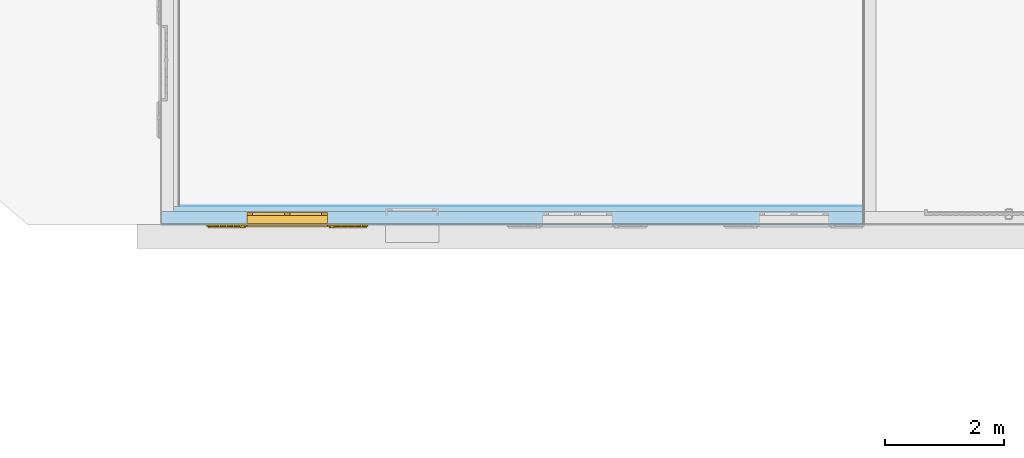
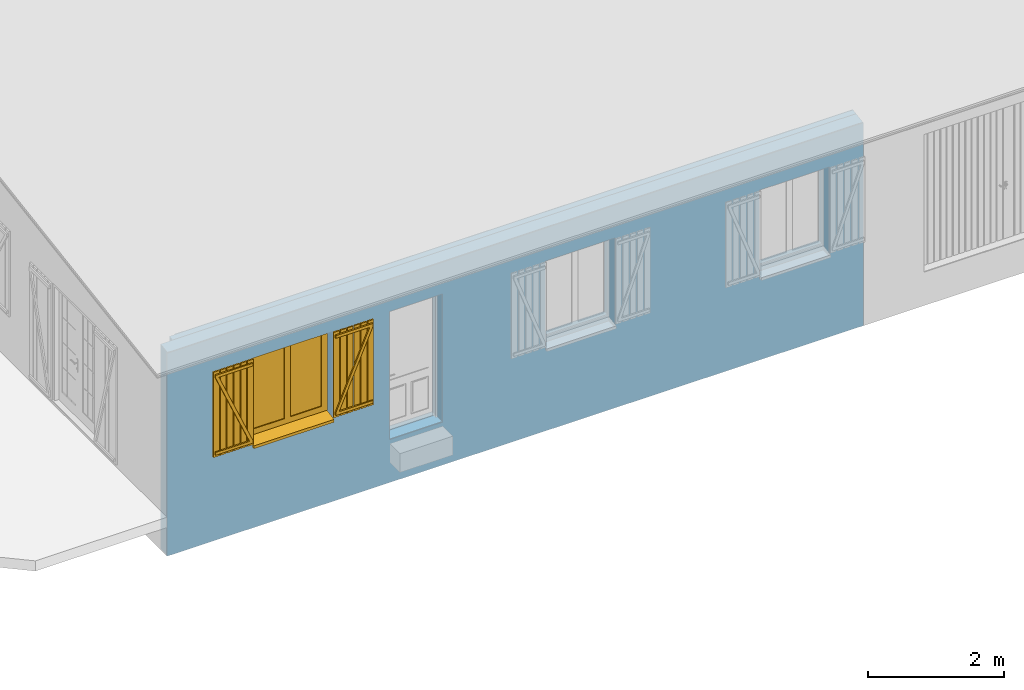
# One storey, part 5 of 12: 1 window, 4 openings, 1 element without a shape of its own, plus 4 elements that do not belong to this part.
"""IFC2X3 building model written with IfcOpenShell, lengths in metres."""

from ifc_helpers import new_model, entity, si_unit, converted_unit, derived_unit, money_unit, direction, frame, origin_with_axes, origin_2d_with_axis, place, context, subcontext, project, spatial, polyline, rectangle, outline, extrude, boolean, open_shell, faceted_brep, surface_model, material, type_object, element, fill, aggregate, save


model = new_model("IFC2X3")

# Units and contexts
model_context = context("Model", 3, precision=1e-05, world=origin_with_axes(), true_north=direction((0.0, 1.0)))
body_context = subcontext(model_context, "Body", "Model", "MODEL_VIEW")
ifc_project = project(units=[si_unit("LENGTHUNIT", "METRE"), si_unit("AREAUNIT", "SQUARE_METRE"), si_unit("VOLUMEUNIT", "CUBIC_METRE"), converted_unit("PLANEANGLEUNIT", "DEGREE", entity("IfcPlaneAngleMeasure", 0.0174532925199), si_unit("PLANEANGLEUNIT", "RADIAN"), dimensions=[0, 0, 0, 0, 0, 0, 0]), si_unit("SOLIDANGLEUNIT", "STERADIAN"), money_unit("CHF"), converted_unit("TIMEUNIT", "Year", entity("IfcTimeMeasure", 31556926.0), si_unit("TIMEUNIT", "SECOND"), dimensions=[0, 0, 1, 0, 0, 0, 0]), si_unit("MASSUNIT", "GRAM", prefix="KILO"), si_unit("THERMODYNAMICTEMPERATUREUNIT", "DEGREE_CELSIUS"), si_unit("LUMINOUSINTENSITYUNIT", "LUMEN"), si_unit("ENERGYUNIT", "JOULE", prefix="MEGA"), derived_unit("THERMALCONDUCTANCEUNIT", [(si_unit("POWERUNIT", "WATT"), 1), (si_unit("LENGTHUNIT", "METRE"), -1), (si_unit("THERMODYNAMICTEMPERATUREUNIT", "KELVIN"), -1)]), derived_unit("SPECIFICHEATCAPACITYUNIT", [(si_unit("ENERGYUNIT", "JOULE"), 1), (si_unit("MASSUNIT", "GRAM", prefix="KILO"), -1), (si_unit("THERMODYNAMICTEMPERATUREUNIT", "KELVIN"), -1)]), derived_unit("MASSDENSITYUNIT", [(si_unit("MASSUNIT", "GRAM", prefix="KILO"), 1), (si_unit("VOLUMEUNIT", "CUBIC_METRE"), -1)])], contexts=[model_context])

# Site, building, storey
site_placement = place(None, origin_with_axes())
site = spatial("IfcSite", under=ifc_project, at=site_placement, Name="Site", CompositionType="ELEMENT")
building_placement = place(site_placement, origin_with_axes())
building = spatial("IfcBuilding", under=site, at=building_placement, Name="Bâtiment", CompositionType="ELEMENT")
storey_placement = place(building_placement, origin_with_axes())
storey = spatial("IfcBuildingStorey", under=building, at=storey_placement, Name="Rez-de-chaussée", CompositionType="ELEMENT", Elevation=0.0)

# Window
window_style = type_object("IfcWindowStyle", Name="Fenêtre horizontale à châssis multiples 24", ConstructionType="NOTDEFINED", OperationType="DOUBLE_PANEL_VERTICAL", ParameterTakesPrecedence=False, Sizeable=False)
wall_placement = place(storey_placement, frame((23.3871417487, 7.7379346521, -0.6), z_axis=(0.0, 0.0, 1.0), x_axis=(-1.0, 0.0, 0.0)))
opening_3_placement = place(wall_placement, frame((9.69, 0.0, 1.55), z_axis=(0.0, 0.0, 1.0), x_axis=(1.0, 0.0, 0.0)))
window_placement = place(opening_3_placement, frame((0.68, 0.0, 0.0), z_axis=(0.0, 0.0, 1.0), x_axis=(-1.0, 0.0, 0.0)))
window = element("IfcWindow", 1, at=window_placement, inside=storey, type_object=window_style, Name="FENETRE-002", ObjectType="WINDOW", OverallHeight=1.5, OverallWidth=1.36, context=body_context, shape_type="SurfaceModel", body=[
    faceted_brep([(1.36, 0.185, 0.0), (0.0, 0.185, 0.0), (0.0, 0.175, 0.0), (1.36, 0.175, 0.0), (1.36, 0.185, -0.1), (0.0, 0.185, -0.1), (0.0, -0.045, -0.1), (0.0, -0.045, -0.0487919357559), (0.0, 0.175, -0.01), (1.36, 0.175, -0.01), (1.36, -0.045, -0.0487919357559), (1.36, -0.045, -0.1)], [[[0, 1, 2, 3]], [[4, 5, 1, 0]], [[1, 5, 6, 7, 8, 2]], [[3, 2, 8, 9]], [[0, 3, 9, 10, 11, 4]], [[11, 6, 5, 4]], [[10, 7, 6, 11]], [[9, 8, 7, 10]]]),
    faceted_brep([(1.36, -0.006, -0.0326204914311), (1.46, -0.006, -0.0326204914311), (1.46, -0.031, -0.0326204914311), (1.36, -0.031, -0.0326204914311), (1.36, -0.006, 1.5), (1.46, -0.006, 1.5), (1.46, -0.031, 1.5), (1.36, -0.031, 1.5)], [[[0, 1, 2, 3]], [[0, 4, 5, 1]], [[1, 5, 6, 2]], [[3, 2, 6, 7]], [[4, 0, 3, 7]], [[5, 4, 7, 6]]]),
    faceted_brep([(1.476, -0.006, -0.0326204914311), (1.576, -0.006, -0.0326204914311), (1.576, -0.031, -0.0326204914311), (1.476, -0.031, -0.0326204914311), (1.476, -0.006, 1.5), (1.576, -0.006, 1.5), (1.576, -0.031, 1.5), (1.476, -0.031, 1.5)], [[[0, 1, 2, 3]], [[0, 4, 5, 1]], [[1, 5, 6, 2]], [[3, 2, 6, 7]], [[4, 0, 3, 7]], [[5, 4, 7, 6]]]),
    faceted_brep([(1.592, -0.006, -0.0326204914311), (1.692, -0.006, -0.0326204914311), (1.692, -0.031, -0.0326204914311), (1.592, -0.031, -0.0326204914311), (1.592, -0.006, 1.5), (1.692, -0.006, 1.5), (1.692, -0.031, 1.5), (1.592, -0.031, 1.5)], [[[0, 1, 2, 3]], [[0, 4, 5, 1]], [[1, 5, 6, 2]], [[3, 2, 6, 7]], [[4, 0, 3, 7]], [[5, 4, 7, 6]]]),
    faceted_brep([(1.708, -0.006, -0.0326204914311), (1.808, -0.006, -0.0326204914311), (1.808, -0.031, -0.0326204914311), (1.708, -0.031, -0.0326204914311), (1.708, -0.006, 1.5), (1.808, -0.006, 1.5), (1.808, -0.031, 1.5), (1.708, -0.031, 1.5)], [[[0, 1, 2, 3]], [[0, 4, 5, 1]], [[1, 5, 6, 2]], [[3, 2, 6, 7]], [[4, 0, 3, 7]], [[5, 4, 7, 6]]]),
    faceted_brep([(1.824, -0.006, -0.0326204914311), (1.924, -0.006, -0.0326204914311), (1.924, -0.031, -0.0326204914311), (1.824, -0.031, -0.0326204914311), (1.824, -0.006, 1.5), (1.924, -0.006, 1.5), (1.924, -0.031, 1.5), (1.824, -0.031, 1.5)], [[[0, 1, 2, 3]], [[0, 4, 5, 1]], [[1, 5, 6, 2]], [[3, 2, 6, 7]], [[4, 0, 3, 7]], [[5, 4, 7, 6]]]),
    faceted_brep([(1.94, -0.006, -0.0326204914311), (2.04, -0.006, -0.0326204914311), (2.04, -0.031, -0.0326204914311), (1.94, -0.031, -0.0326204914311), (1.94, -0.006, 1.5), (2.04, -0.006, 1.5), (2.04, -0.031, 1.5), (1.94, -0.031, 1.5)], [[[0, 1, 2, 3]], [[0, 4, 5, 1]], [[1, 5, 6, 2]], [[3, 2, 6, 7]], [[4, 0, 3, 7]], [[5, 4, 7, 6]]]),
    faceted_brep([(1.385, -0.031, 0.0173795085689), (2.015, -0.031, 0.0173795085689), (2.015, -0.056, 0.0173795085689), (1.385, -0.056, 0.0173795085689), (1.385, -0.031, 0.0673795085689), (2.015, -0.031, 0.0673795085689), (2.015, -0.056, 0.0673795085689), (1.385, -0.056, 0.0673795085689)], [[[0, 1, 2, 3]], [[0, 4, 5, 1]], [[1, 5, 6, 2]], [[3, 2, 6, 7]], [[4, 0, 3, 7]], [[5, 4, 7, 6]]]),
    faceted_brep([(1.385, -0.031, 1.45), (1.385, -0.031, 1.4), (1.385, -0.056, 1.4), (1.385, -0.056, 1.45), (2.015, -0.031, 1.45), (2.015, -0.031, 1.4), (2.015, -0.056, 1.4), (2.015, -0.056, 1.45)], [[[0, 1, 2, 3]], [[0, 4, 5, 1]], [[1, 5, 6, 2]], [[3, 2, 6, 7]], [[4, 0, 3, 7]], [[5, 4, 7, 6]]]),
    faceted_brep([(1.385, -0.031, 0.0673795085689), (1.43946381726, -0.031, 0.0673795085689), (1.43946381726, -0.056, 0.0673795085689), (1.385, -0.056, 0.0673795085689), (1.96053618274, -0.031, 1.4), (2.015, -0.031, 1.4), (2.015, -0.056, 1.4), (1.96053618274, -0.056, 1.4)], [[[0, 1, 2, 3]], [[0, 4, 5, 1]], [[1, 5, 6, 2]], [[3, 2, 6, 7]], [[4, 0, 3, 7]], [[5, 4, 7, 6]]]),
    faceted_brep([(0.0, -0.006, -0.0326204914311), (0.0, -0.031, -0.0326204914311), (-0.1, -0.031, -0.0326204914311), (-0.1, -0.006, -0.0326204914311), (0.0, -0.006, 1.5), (0.0, -0.031, 1.5), (-0.1, -0.031, 1.5), (-0.1, -0.006, 1.5)], [[[0, 1, 2, 3]], [[4, 5, 1, 0]], [[1, 5, 6, 2]], [[3, 2, 6, 7]], [[0, 3, 7, 4]], [[7, 6, 5, 4]]]),
    faceted_brep([(-0.116, -0.006, -0.0326204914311), (-0.116, -0.031, -0.0326204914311), (-0.216, -0.031, -0.0326204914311), (-0.216, -0.006, -0.0326204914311), (-0.116, -0.006, 1.5), (-0.116, -0.031, 1.5), (-0.216, -0.031, 1.5), (-0.216, -0.006, 1.5)], [[[0, 1, 2, 3]], [[4, 5, 1, 0]], [[1, 5, 6, 2]], [[3, 2, 6, 7]], [[0, 3, 7, 4]], [[7, 6, 5, 4]]]),
    faceted_brep([(-0.232, -0.006, -0.0326204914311), (-0.232, -0.031, -0.0326204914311), (-0.332, -0.031, -0.0326204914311), (-0.332, -0.006, -0.0326204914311), (-0.232, -0.006, 1.5), (-0.232, -0.031, 1.5), (-0.332, -0.031, 1.5), (-0.332, -0.006, 1.5)], [[[0, 1, 2, 3]], [[4, 5, 1, 0]], [[1, 5, 6, 2]], [[3, 2, 6, 7]], [[0, 3, 7, 4]], [[7, 6, 5, 4]]]),
    faceted_brep([(-0.348, -0.006, -0.0326204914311), (-0.348, -0.031, -0.0326204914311), (-0.448, -0.031, -0.0326204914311), (-0.448, -0.006, -0.0326204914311), (-0.348, -0.006, 1.5), (-0.348, -0.031, 1.5), (-0.448, -0.031, 1.5), (-0.448, -0.006, 1.5)], [[[0, 1, 2, 3]], [[4, 5, 1, 0]], [[1, 5, 6, 2]], [[3, 2, 6, 7]], [[0, 3, 7, 4]], [[7, 6, 5, 4]]]),
    faceted_brep([(-0.464, -0.006, -0.0326204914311), (-0.464, -0.031, -0.0326204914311), (-0.564, -0.031, -0.0326204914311), (-0.564, -0.006, -0.0326204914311), (-0.464, -0.006, 1.5), (-0.464, -0.031, 1.5), (-0.564, -0.031, 1.5), (-0.564, -0.006, 1.5)], [[[0, 1, 2, 3]], [[4, 5, 1, 0]], [[1, 5, 6, 2]], [[3, 2, 6, 7]], [[0, 3, 7, 4]], [[7, 6, 5, 4]]]),
    faceted_brep([(-0.58, -0.006, -0.0326204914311), (-0.58, -0.031, -0.0326204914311), (-0.68, -0.031, -0.0326204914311), (-0.68, -0.006, -0.0326204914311), (-0.58, -0.006, 1.5), (-0.58, -0.031, 1.5), (-0.68, -0.031, 1.5), (-0.68, -0.006, 1.5)], [[[0, 1, 2, 3]], [[4, 5, 1, 0]], [[1, 5, 6, 2]], [[3, 2, 6, 7]], [[0, 3, 7, 4]], [[7, 6, 5, 4]]]),
    faceted_brep([(-0.025, -0.031, 0.0173795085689), (-0.025, -0.056, 0.0173795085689), (-0.655, -0.056, 0.0173795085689), (-0.655, -0.031, 0.0173795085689), (-0.025, -0.031, 0.0673795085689), (-0.025, -0.056, 0.0673795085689), (-0.655, -0.056, 0.0673795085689), (-0.655, -0.031, 0.0673795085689)], [[[0, 1, 2, 3]], [[4, 5, 1, 0]], [[1, 5, 6, 2]], [[3, 2, 6, 7]], [[0, 3, 7, 4]], [[7, 6, 5, 4]]]),
    faceted_brep([(-0.025, -0.031, 1.45), (-0.025, -0.056, 1.45), (-0.025, -0.056, 1.4), (-0.025, -0.031, 1.4), (-0.655, -0.031, 1.45), (-0.655, -0.056, 1.45), (-0.655, -0.056, 1.4), (-0.655, -0.031, 1.4)], [[[0, 1, 2, 3]], [[4, 5, 1, 0]], [[1, 5, 6, 2]], [[3, 2, 6, 7]], [[0, 3, 7, 4]], [[7, 6, 5, 4]]]),
    faceted_brep([(-0.025, -0.031, 0.0673795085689), (-0.025, -0.056, 0.0673795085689), (-0.0794638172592, -0.056, 0.0673795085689), (-0.0794638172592, -0.031, 0.0673795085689), (-0.600536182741, -0.031, 1.4), (-0.600536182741, -0.056, 1.4), (-0.655, -0.056, 1.4), (-0.655, -0.031, 1.4)], [[[0, 1, 2, 3]], [[4, 5, 1, 0]], [[1, 5, 6, 2]], [[3, 2, 6, 7]], [[0, 3, 7, 4]], [[7, 6, 5, 4]]]),
    faceted_brep([(1.26, 0.15, 1.4), (1.36, 0.15, 1.4), (1.36, 0.2, 1.4), (1.26, 0.2, 1.4), (1.26, 0.15, 0.1), (1.36, 0.15, 0.1), (1.36, 0.2, 0.1), (1.26, 0.2, 0.1)], [[[0, 1, 2, 3]], [[0, 4, 5, 1]], [[1, 5, 6, 2]], [[3, 2, 6, 7]], [[4, 0, 3, 7]], [[5, 4, 7, 6]]]),
    faceted_brep([(0.1, 0.15, 0.1), (0.0, 0.15, 0.1), (0.0, 0.2, 0.1), (0.1, 0.2, 0.1), (0.1, 0.15, 1.4), (0.0, 0.15, 1.4), (0.0, 0.2, 1.4), (0.1, 0.2, 1.4)], [[[0, 1, 2, 3]], [[0, 4, 5, 1]], [[1, 5, 6, 2]], [[3, 2, 6, 7]], [[4, 0, 3, 7]], [[5, 4, 7, 6]]]),
    faceted_brep([(0.1, 0.15, 1.4), (0.0, 0.15, 1.4), (0.0, 0.2, 1.4), (0.1, 0.2, 1.4), (0.63, 0.15, 1.4), (0.73, 0.15, 1.4), (1.26, 0.15, 1.4), (1.36, 0.15, 1.4), (1.36, 0.15, 1.5), (0.0, 0.15, 1.5), (0.0, 0.2, 1.5), (1.36, 0.2, 1.5), (1.36, 0.2, 1.4), (1.26, 0.2, 1.4), (0.73, 0.2, 1.4), (0.63, 0.2, 1.4)], [[[0, 1, 2, 3]], [[0, 4, 5, 6, 7, 8, 9, 1]], [[1, 9, 10, 2]], [[3, 2, 10, 11, 12, 13, 14, 15]], [[4, 0, 3, 15]], [[5, 4, 15, 14]], [[6, 5, 14, 13]], [[7, 6, 13, 12]], [[8, 7, 12, 11]], [[9, 8, 11, 10]]]),
    faceted_brep([(0.63, 0.15, 0.1), (0.73, 0.15, 0.1), (0.73, 0.2, 0.1), (0.63, 0.2, 0.1), (0.1, 0.15, 0.1), (0.0, 0.15, 0.1), (0.0, 0.15, 0.0), (1.36, 0.15, 0.0), (1.36, 0.15, 0.1), (1.26, 0.15, 0.1), (1.26, 0.2, 0.1), (1.36, 0.2, 0.1), (1.36, 0.2, 0.0), (0.0, 0.2, 0.0), (0.0, 0.2, 0.1), (0.1, 0.2, 0.1)], [[[0, 1, 2, 3]], [[0, 4, 5, 6, 7, 8, 9, 1]], [[1, 9, 10, 2]], [[3, 2, 10, 11, 12, 13, 14, 15]], [[4, 0, 3, 15]], [[5, 4, 15, 14]], [[6, 5, 14, 13]], [[7, 6, 13, 12]], [[8, 7, 12, 11]], [[9, 8, 11, 10]]]),
    faceted_brep([(0.63, 0.15, 0.1), (0.63, 0.15, 1.4), (0.63, 0.2, 1.4), (0.63, 0.2, 0.1), (0.73, 0.15, 0.1), (0.73, 0.15, 1.4), (0.73, 0.2, 1.4), (0.73, 0.2, 0.1)], [[[0, 1, 2, 3]], [[0, 4, 5, 1]], [[1, 5, 6, 2]], [[3, 2, 6, 7]], [[4, 0, 3, 7]], [[5, 4, 7, 6]]]),
    surface_model("IfcShellBasedSurfaceModel", [(1.26, 0.165, 0.1), (1.26, 0.165, 1.4), (0.73, 0.165, 1.4), (0.73, 0.165, 0.1)], [open_shell([[[0, 1, 2, 3]]])]),
    surface_model("IfcShellBasedSurfaceModel", [(1.26, 0.185, 0.1), (0.73, 0.185, 0.1), (0.73, 0.185, 1.4), (1.26, 0.185, 1.4)], [open_shell([[[0, 1, 2, 3]]])]),
    surface_model("IfcShellBasedSurfaceModel", [(0.63, 0.165, 0.1), (0.63, 0.165, 1.4), (0.1, 0.165, 1.4), (0.1, 0.165, 0.1)], [open_shell([[[0, 1, 2, 3]]])]),
    surface_model("IfcShellBasedSurfaceModel", [(0.63, 0.185, 0.1), (0.1, 0.185, 0.1), (0.1, 0.185, 1.4), (0.63, 0.185, 1.4)], [open_shell([[[0, 1, 2, 3]]])]),
])

# Wall, openings
wall_type = type_object("IfcWallType", Name="0.1 - Mur ext: revét ext + maçonnerie + doublage 10cm 315", PredefinedType="ELEMENTEDWALL")
wall = element("IfcWall", 2, at=wall_placement, inside=storey, type_object=wall_type, Name="MUR_EXT-005", ObjectType="ELEMENTEDWALL")
opening_1_placement = place(wall_placement, frame((1.17, 0.0, 1.55), z_axis=(0.0, 0.0, 1.0), x_axis=(1.0, 0.0, 0.0)))
element("IfcOpeningElement", 3, at=opening_1_placement, cuts=wall, Name="FENETRE-002", context=body_context, shape_type="SweptSolid", body=[
    extrude(rectangle(XDim=1.18, YDim=1.5, at=origin_2d_with_axis()), frame((0.0, -0.15, 0.75), z_axis=(0.0, -1.0, 0.0), x_axis=(1.0, 0.0, 0.0)), (0.0, 0.0, 1.0), 0.48),
    extrude(rectangle(XDim=1.18, YDim=1.5, at=origin_2d_with_axis()), frame((0.0, -0.15, 0.75), z_axis=(0.0, 1.0, 0.0), x_axis=(1.0, 0.0, 0.0)), (0.0, 0.0, 1.0), 0.465),
    extrude(rectangle(XDim=1.18, YDim=0.1, at=origin_2d_with_axis()), frame((0.0, -0.185, -0.05), z_axis=(0.0, 1.0, 0.0), x_axis=(1.0, 0.0, 0.0)), (0.0, 0.0, 1.0), 0.35),
])
opening_2_placement = place(wall_placement, frame((4.81, 0.0, 1.55), z_axis=(0.0, 0.0, 1.0), x_axis=(1.0, 0.0, 0.0)))
element("IfcOpeningElement", 4, at=opening_2_placement, cuts=wall, Name="FENETRE-002", context=body_context, shape_type="SweptSolid", body=[
    extrude(rectangle(XDim=1.18, YDim=1.5, at=origin_2d_with_axis()), frame((0.0, -0.15, 0.75), z_axis=(0.0, -1.0, 0.0), x_axis=(1.0, 0.0, 0.0)), (0.0, 0.0, 1.0), 0.48),
    extrude(rectangle(XDim=1.18, YDim=1.5, at=origin_2d_with_axis()), frame((0.0, -0.15, 0.75), z_axis=(0.0, 1.0, 0.0), x_axis=(1.0, 0.0, 0.0)), (0.0, 0.0, 1.0), 0.465),
    extrude(rectangle(XDim=1.18, YDim=0.1, at=origin_2d_with_axis()), frame((0.0, -0.185, -0.05), z_axis=(0.0, 1.0, 0.0), x_axis=(1.0, 0.0, 0.0)), (0.0, 0.0, 1.0), 0.35),
])
opening_3 = element("IfcOpeningElement", 5, at=opening_3_placement, cuts=wall, Name="FENETRE-002", context=body_context, shape_type="SweptSolid", body=[
    extrude(rectangle(XDim=1.36, YDim=1.5, at=origin_2d_with_axis()), frame((0.0, -0.15, 0.75), z_axis=(0.0, -1.0, 0.0), x_axis=(1.0, 0.0, 0.0)), (0.0, 0.0, 1.0), 0.48),
    extrude(rectangle(XDim=1.36, YDim=1.5, at=origin_2d_with_axis()), frame((0.0, -0.15, 0.75), z_axis=(0.0, 1.0, 0.0), x_axis=(1.0, 0.0, 0.0)), (0.0, 0.0, 1.0), 0.465),
    extrude(rectangle(XDim=1.36, YDim=0.1, at=origin_2d_with_axis()), frame((0.0, -0.185, -0.05), z_axis=(0.0, 1.0, 0.0), x_axis=(1.0, 0.0, 0.0)), (0.0, 0.0, 1.0), 0.35),
])

fill(opening_3, window)

# Opening
opening_4_placement = place(wall_placement, frame((7.59, 0.0, 0.77), z_axis=(0.0, 0.0, 1.0), x_axis=(1.0, 0.0, 0.0)))
element("IfcOpeningElement", 6, at=opening_4_placement, cuts=wall, Name="PORTE-003", context=body_context, shape_type="SweptSolid", body=[
    extrude(rectangle(XDim=0.9, YDim=2.3, at=origin_2d_with_axis()), frame((0.0, -0.15, 1.15), z_axis=(0.0, 1.0, 0.0), x_axis=(-1.0, 0.0, 0.0)), (0.0, 0.0, -1.0), 0.48),
    extrude(rectangle(XDim=0.9, YDim=2.3, at=origin_2d_with_axis()), frame((0.0, -0.15, 1.15), z_axis=(0.0, -1.0, 0.0), x_axis=(-1.0, 0.0, 0.0)), (0.0, 0.0, -1.0), 0.465),
])

# Building element part
ifc_material_1 = material(Name="Finition int - Plaque de plâtre")
building_element_part_1_placement = place(wall_placement, origin_with_axes())
building_element_part_1 = element("IfcBuildingElementPart", 7, at=building_element_part_1_placement, material=ifc_material_1, Name="Finition int - Plaque de plâtre", context=body_context, shape_type="CSG", body=[
    boolean("DIFFERENCE", boolean("DIFFERENCE", boolean("DIFFERENCE", boolean("DIFFERENCE", extrude(outline(polyline([(0.0, -0.315), (11.82, -0.315), (11.82, -0.305), (0.0, -0.305), (0.0, -0.315)])), origin_with_axes(), (0.0, 0.0, 1.0), 5.5967588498), faceted_brep([(0.0, -0.305, 3.6887999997), (0.0, -0.315, 3.6903999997), (0.0, -0.315, 5.5967588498), (0.0, -0.305, 5.5967588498), (11.515, -0.315, 3.6903999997), (11.515, -0.305, 3.6887999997), (11.515, -0.315, 0.0), (11.82, -0.315, 0.0), (11.82, -0.315, 5.5967588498), (11.82, -0.305, 5.5967588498), (11.82, -0.305, 0.0), (11.515, -0.305, 0.0)], [[[0, 1, 2, 3]], [[4, 1, 0, 5]], [[4, 6, 7, 8, 2, 1]], [[3, 2, 8, 9]], [[5, 0, 3, 9, 10, 11]], [[6, 4, 5, 11]], [[6, 11, 10, 7]], [[8, 7, 10, 9]]])), faceted_brep([(0.0, -0.215, 3.6743999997), (0.0, -0.305, 3.6887999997), (0.0, -0.305, 5.5967588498), (0.0, -0.215, 5.5967588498), (11.605, -0.215, 3.6743999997), (11.605, -0.305, 3.6887999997), (11.605, -0.305, 0.0), (11.82, -0.305, 0.0), (11.82, -0.305, 5.5967588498), (11.82, -0.215, 5.5967588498), (11.82, -0.215, 0.0), (11.605, -0.215, 0.0)], [[[0, 1, 2, 3]], [[1, 0, 4, 5]], [[5, 6, 7, 8, 2, 1]], [[3, 2, 8, 9]], [[4, 0, 3, 9, 10, 11]], [[6, 5, 4, 11]], [[6, 11, 10, 7]], [[8, 7, 10, 9]]])), faceted_brep([(0.0, -0.015, 3.6423999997), (0.0, -0.215, 3.6743999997), (0.0, -0.215, 5.5967588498), (0.0, -0.015, 5.5967588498), (11.805, -0.015, 3.6423999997), (11.805, -0.215, 3.6743999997), (11.805, -0.215, 0.0), (11.82, -0.215, 0.0), (11.82, -0.215, 5.5967588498), (11.82, -0.015, 5.5967588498), (11.82, -0.015, 0.0), (11.805, -0.015, 0.0)], [[[0, 1, 2, 3]], [[1, 0, 4, 5]], [[5, 6, 7, 8, 2, 1]], [[3, 2, 8, 9]], [[4, 0, 3, 9, 10, 11]], [[6, 5, 4, 11]], [[6, 11, 10, 7]], [[8, 7, 10, 9]]])), faceted_brep([(0.0, 0.0, 3.6399999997), (0.0, -0.015, 3.6423999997), (0.0, -0.015, 5.5967588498), (0.0, 0.0, 5.5967588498), (11.82, 0.0, 3.6399999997), (11.82, -0.015, 3.6423999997), (11.82, -0.015, 5.5967588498), (11.82, 0.0, 5.5967588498)], [[[0, 1, 2, 3]], [[1, 0, 4, 5]], [[5, 6, 2, 1]], [[3, 2, 6, 7]], [[4, 0, 3, 7]], [[5, 4, 7, 6]]])),
])

ifc_material_2 = material(Name="Isolation - Laine de verre")
building_element_part_2_placement = place(wall_placement, origin_with_axes())
building_element_part_2 = element("IfcBuildingElementPart", 8, at=building_element_part_2_placement, material=ifc_material_2, Name="Isolation - Laine de verre", context=body_context, shape_type="CSG", body=[
    boolean("DIFFERENCE", boolean("DIFFERENCE", boolean("DIFFERENCE", boolean("DIFFERENCE", extrude(outline(polyline([(0.0, -0.305), (11.82, -0.305), (11.82, -0.215), (0.0, -0.215), (0.0, -0.305)])), origin_with_axes(), (0.0, 0.0, 1.0), 5.5967588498), faceted_brep([(0.0, -0.305, 3.6887999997), (0.0, -0.315, 3.6903999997), (0.0, -0.315, 5.5967588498), (0.0, -0.305, 5.5967588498), (11.515, -0.315, 3.6903999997), (11.515, -0.305, 3.6887999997), (11.515, -0.315, 0.0), (11.82, -0.315, 0.0), (11.82, -0.315, 5.5967588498), (11.82, -0.305, 5.5967588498), (11.82, -0.305, 0.0), (11.515, -0.305, 0.0)], [[[0, 1, 2, 3]], [[4, 1, 0, 5]], [[4, 6, 7, 8, 2, 1]], [[3, 2, 8, 9]], [[5, 0, 3, 9, 10, 11]], [[6, 4, 5, 11]], [[6, 11, 10, 7]], [[8, 7, 10, 9]]])), faceted_brep([(0.0, -0.215, 3.6743999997), (0.0, -0.305, 3.6887999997), (0.0, -0.305, 5.5967588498), (0.0, -0.215, 5.5967588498), (11.605, -0.215, 3.6743999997), (11.605, -0.305, 3.6887999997), (11.605, -0.305, 0.0), (11.82, -0.305, 0.0), (11.82, -0.305, 5.5967588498), (11.82, -0.215, 5.5967588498), (11.82, -0.215, 0.0), (11.605, -0.215, 0.0)], [[[0, 1, 2, 3]], [[1, 0, 4, 5]], [[5, 6, 7, 8, 2, 1]], [[3, 2, 8, 9]], [[4, 0, 3, 9, 10, 11]], [[6, 5, 4, 11]], [[6, 11, 10, 7]], [[8, 7, 10, 9]]])), faceted_brep([(0.0, -0.015, 3.6423999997), (0.0, -0.215, 3.6743999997), (0.0, -0.215, 5.5967588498), (0.0, -0.015, 5.5967588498), (11.805, -0.015, 3.6423999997), (11.805, -0.215, 3.6743999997), (11.805, -0.215, 0.0), (11.82, -0.215, 0.0), (11.82, -0.215, 5.5967588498), (11.82, -0.015, 5.5967588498), (11.82, -0.015, 0.0), (11.805, -0.015, 0.0)], [[[0, 1, 2, 3]], [[1, 0, 4, 5]], [[5, 6, 7, 8, 2, 1]], [[3, 2, 8, 9]], [[4, 0, 3, 9, 10, 11]], [[6, 5, 4, 11]], [[6, 11, 10, 7]], [[8, 7, 10, 9]]])), faceted_brep([(0.0, 0.0, 3.6399999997), (0.0, -0.015, 3.6423999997), (0.0, -0.015, 5.5967588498), (0.0, 0.0, 5.5967588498), (11.82, 0.0, 3.6399999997), (11.82, -0.015, 3.6423999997), (11.82, -0.015, 5.5967588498), (11.82, 0.0, 5.5967588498)], [[[0, 1, 2, 3]], [[1, 0, 4, 5]], [[5, 6, 2, 1]], [[3, 2, 6, 7]], [[4, 0, 3, 7]], [[5, 4, 7, 6]]])),
])

ifc_material_3 = material(Name="Brique ciment (extérieur)")
building_element_part_3_placement = place(wall_placement, origin_with_axes())
building_element_part_3 = element("IfcBuildingElementPart", 9, at=building_element_part_3_placement, material=ifc_material_3, Name="Brique ciment (extérieur)", context=body_context, shape_type="CSG", body=[
    boolean("DIFFERENCE", boolean("DIFFERENCE", boolean("DIFFERENCE", boolean("DIFFERENCE", extrude(outline(polyline([(0.0, -0.215), (11.82, -0.215), (11.82, -0.015), (0.0, -0.015), (0.0, -0.215)])), origin_with_axes(), (0.0, 0.0, 1.0), 5.5967588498), faceted_brep([(0.0, -0.305, 3.6887999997), (0.0, -0.315, 3.6903999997), (0.0, -0.315, 5.5967588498), (0.0, -0.305, 5.5967588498), (11.515, -0.315, 3.6903999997), (11.515, -0.305, 3.6887999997), (11.515, -0.315, 0.0), (11.82, -0.315, 0.0), (11.82, -0.315, 5.5967588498), (11.82, -0.305, 5.5967588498), (11.82, -0.305, 0.0), (11.515, -0.305, 0.0)], [[[0, 1, 2, 3]], [[4, 1, 0, 5]], [[4, 6, 7, 8, 2, 1]], [[3, 2, 8, 9]], [[5, 0, 3, 9, 10, 11]], [[6, 4, 5, 11]], [[6, 11, 10, 7]], [[8, 7, 10, 9]]])), faceted_brep([(0.0, -0.215, 3.6743999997), (0.0, -0.305, 3.6887999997), (0.0, -0.305, 5.5967588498), (0.0, -0.215, 5.5967588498), (11.605, -0.215, 3.6743999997), (11.605, -0.305, 3.6887999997), (11.605, -0.305, 0.0), (11.82, -0.305, 0.0), (11.82, -0.305, 5.5967588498), (11.82, -0.215, 5.5967588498), (11.82, -0.215, 0.0), (11.605, -0.215, 0.0)], [[[0, 1, 2, 3]], [[1, 0, 4, 5]], [[5, 6, 7, 8, 2, 1]], [[3, 2, 8, 9]], [[4, 0, 3, 9, 10, 11]], [[6, 5, 4, 11]], [[6, 11, 10, 7]], [[8, 7, 10, 9]]])), faceted_brep([(0.0, -0.015, 3.6423999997), (0.0, -0.215, 3.6743999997), (0.0, -0.215, 5.5967588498), (0.0, -0.015, 5.5967588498), (11.805, -0.015, 3.6423999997), (11.805, -0.215, 3.6743999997), (11.805, -0.215, 0.0), (11.82, -0.215, 0.0), (11.82, -0.215, 5.5967588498), (11.82, -0.015, 5.5967588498), (11.82, -0.015, 0.0), (11.805, -0.015, 0.0)], [[[0, 1, 2, 3]], [[1, 0, 4, 5]], [[5, 6, 7, 8, 2, 1]], [[3, 2, 8, 9]], [[4, 0, 3, 9, 10, 11]], [[6, 5, 4, 11]], [[6, 11, 10, 7]], [[8, 7, 10, 9]]])), faceted_brep([(0.0, 0.0, 3.6399999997), (0.0, -0.015, 3.6423999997), (0.0, -0.015, 5.5967588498), (0.0, 0.0, 5.5967588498), (11.82, 0.0, 3.6399999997), (11.82, -0.015, 3.6423999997), (11.82, -0.015, 5.5967588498), (11.82, 0.0, 5.5967588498)], [[[0, 1, 2, 3]], [[1, 0, 4, 5]], [[5, 6, 2, 1]], [[3, 2, 6, 7]], [[4, 0, 3, 7]], [[5, 4, 7, 6]]])),
])

ifc_material_4 = material(Name="Finition ext - Crépis")
building_element_part_4_placement = place(wall_placement, origin_with_axes())
building_element_part_4 = element("IfcBuildingElementPart", 10, at=building_element_part_4_placement, material=ifc_material_4, Name="Finition ext - Crépis", context=body_context, shape_type="CSG", body=[
    boolean("DIFFERENCE", boolean("DIFFERENCE", boolean("DIFFERENCE", boolean("DIFFERENCE", extrude(outline(polyline([(0.0, -0.015), (11.82, -0.015), (11.82, 0.0), (0.0, 0.0), (0.0, -0.015)])), origin_with_axes(), (0.0, 0.0, 1.0), 5.5967588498), faceted_brep([(0.0, -0.305, 3.6887999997), (0.0, -0.315, 3.6903999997), (0.0, -0.315, 5.5967588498), (0.0, -0.305, 5.5967588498), (11.515, -0.315, 3.6903999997), (11.515, -0.305, 3.6887999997), (11.515, -0.315, 0.0), (11.82, -0.315, 0.0), (11.82, -0.315, 5.5967588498), (11.82, -0.305, 5.5967588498), (11.82, -0.305, 0.0), (11.515, -0.305, 0.0)], [[[0, 1, 2, 3]], [[4, 1, 0, 5]], [[4, 6, 7, 8, 2, 1]], [[3, 2, 8, 9]], [[5, 0, 3, 9, 10, 11]], [[6, 4, 5, 11]], [[6, 11, 10, 7]], [[8, 7, 10, 9]]])), faceted_brep([(0.0, -0.215, 3.6743999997), (0.0, -0.305, 3.6887999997), (0.0, -0.305, 5.5967588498), (0.0, -0.215, 5.5967588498), (11.605, -0.215, 3.6743999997), (11.605, -0.305, 3.6887999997), (11.605, -0.305, 0.0), (11.82, -0.305, 0.0), (11.82, -0.305, 5.5967588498), (11.82, -0.215, 5.5967588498), (11.82, -0.215, 0.0), (11.605, -0.215, 0.0)], [[[0, 1, 2, 3]], [[1, 0, 4, 5]], [[5, 6, 7, 8, 2, 1]], [[3, 2, 8, 9]], [[4, 0, 3, 9, 10, 11]], [[6, 5, 4, 11]], [[6, 11, 10, 7]], [[8, 7, 10, 9]]])), faceted_brep([(0.0, -0.015, 3.6423999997), (0.0, -0.215, 3.6743999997), (0.0, -0.215, 5.5967588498), (0.0, -0.015, 5.5967588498), (11.805, -0.015, 3.6423999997), (11.805, -0.215, 3.6743999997), (11.805, -0.215, 0.0), (11.82, -0.215, 0.0), (11.82, -0.215, 5.5967588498), (11.82, -0.015, 5.5967588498), (11.82, -0.015, 0.0), (11.805, -0.015, 0.0)], [[[0, 1, 2, 3]], [[1, 0, 4, 5]], [[5, 6, 7, 8, 2, 1]], [[3, 2, 8, 9]], [[4, 0, 3, 9, 10, 11]], [[6, 5, 4, 11]], [[6, 11, 10, 7]], [[8, 7, 10, 9]]])), faceted_brep([(0.0, 0.0, 3.6399999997), (0.0, -0.015, 3.6423999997), (0.0, -0.015, 5.5967588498), (0.0, 0.0, 5.5967588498), (11.82, 0.0, 3.6399999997), (11.82, -0.015, 3.6423999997), (11.82, -0.015, 5.5967588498), (11.82, 0.0, 5.5967588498)], [[[0, 1, 2, 3]], [[1, 0, 4, 5]], [[5, 6, 2, 1]], [[3, 2, 6, 7]], [[4, 0, 3, 7]], [[5, 4, 7, 6]]])),
])

aggregate(wall, [building_element_part_1, building_element_part_2, building_element_part_3, building_element_part_4])

save(model, "model.ifc")
